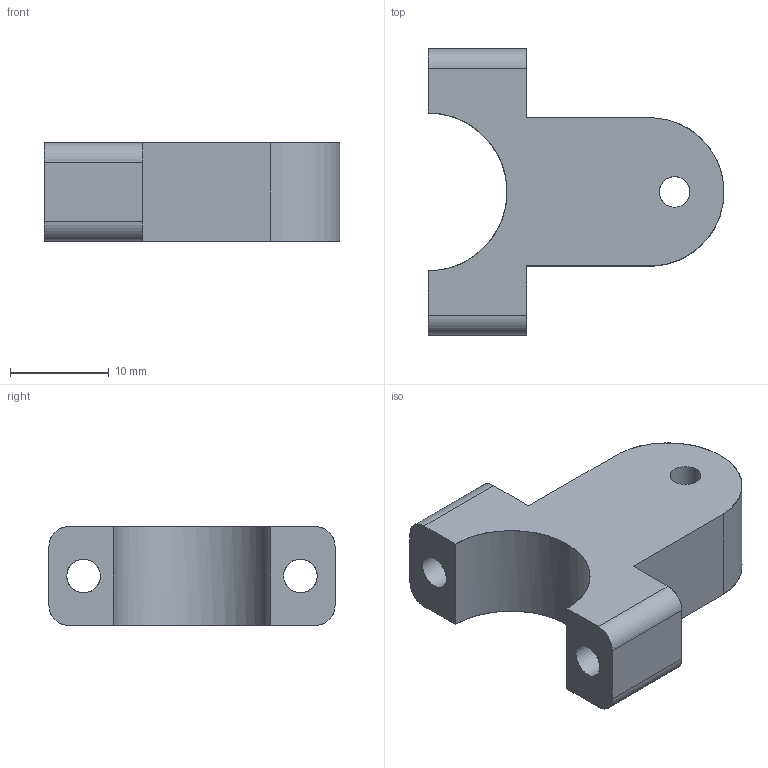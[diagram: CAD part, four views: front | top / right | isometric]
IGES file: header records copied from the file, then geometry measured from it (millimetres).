
Global section: file name: C:\Users\gehrichcr\Documents\1 Drive Backup\Practice\Inspire\V1.5\IGES\Boom Support Linkage V4 A.igs; native system: NX V8.5; preprocessor: SIEMENS PLM Software NX 8.5; date: 20150608.092843; units: millimetre
Bounding box: 30 x 29 x 10 mm (x, y, z)
Surface area: 2356.2 mm2 (no closed solid volume)
Topology: 0 solids, 0 shells, 19 faces, 170 edges, 170 vertices
Faces by surface type: bspline 19
